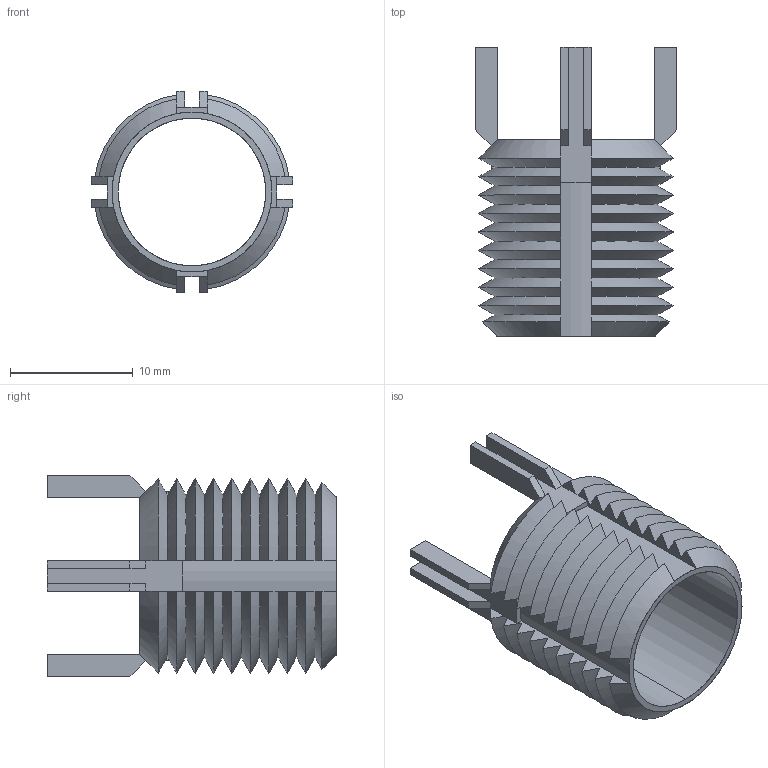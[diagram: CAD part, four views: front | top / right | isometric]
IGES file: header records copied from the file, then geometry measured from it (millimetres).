
Start section: SolidWorks IGES file using analytic representation for surfaces
Global section: file name: C:\Users\IanO\Desktop\22004_v2\TR1520_v2_20230331_IGES\TR1520.65956.igs; native system: SolidWorks 2019; preprocessor: SolidWorks 2019; author: IanO; date: 230331.094853; units: millimetre
Bounding box: 16.36 x 23.5 x 16.36 mm (x, y, z)
Surface area: 2343.3 mm2 (no closed solid volume)
Topology: 0 solids, 0 shells, 160 faces, 992 edges, 992 vertices
Faces by surface type: revolution 86, bspline 74
